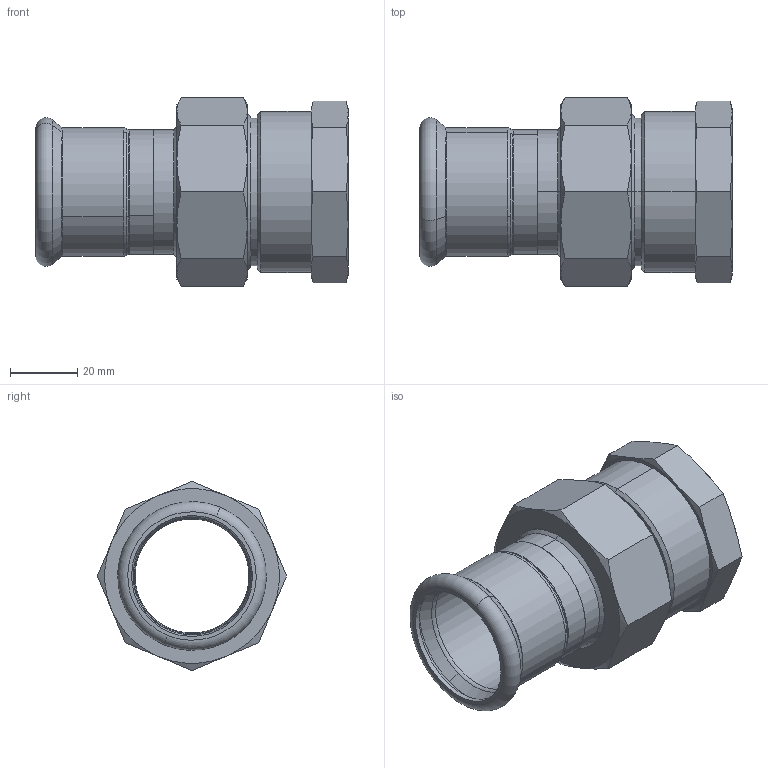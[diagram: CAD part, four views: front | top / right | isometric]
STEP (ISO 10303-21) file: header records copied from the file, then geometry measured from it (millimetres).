
FILE_DESCRIPTION (( 'STEP AP203' ), '1' );
FILE_NAME ('GDA5458.STEP', '2019-01-17T07:38:33', ( '' ), ( '' ), 'SwSTEP 2.0', 'SolidWorks 2015', '' );
FILE_SCHEMA (( 'CONFIG_CONTROL_DESIGN' ));
Length unit declared in the file: millimetre
Products named in the file (6): T-ｉ-01-35; GDA5458; ZL-¢ñ-01¡Á1__1; 35｡ﾁ1_; 囀俋佪蛌遙諉芛1.5-1.2; 1__1
Assembly tree (5 placements, depth 2):
  GDA5458
    35｡ﾁ1_
    T-ｉ-01-35
    ZL-¢ñ-01¡Á1__1
    囀俋佪蛌遙諉芛1.5-1.2
    1__1
Bounding box: 93 x 56.28 x 56.28 mm (x, y, z)
Volume: 59313.7 mm3; surface area: 37386.2 mm2
Topology: 5 solids, 5 shells, 144 faces, 314 edges, 187 vertices
Faces by surface type: cone 59, cylinder 36, plane 33, torus 16
Entity records: 4777 total; most frequent: CARTESIAN_POINT 973, DIRECTION 725, ORIENTED_EDGE 628, AXIS2_PLACEMENT_3D 323, EDGE_CURVE 314, VERTEX_POINT 187, CIRCLE 171, EDGE_LOOP 161
